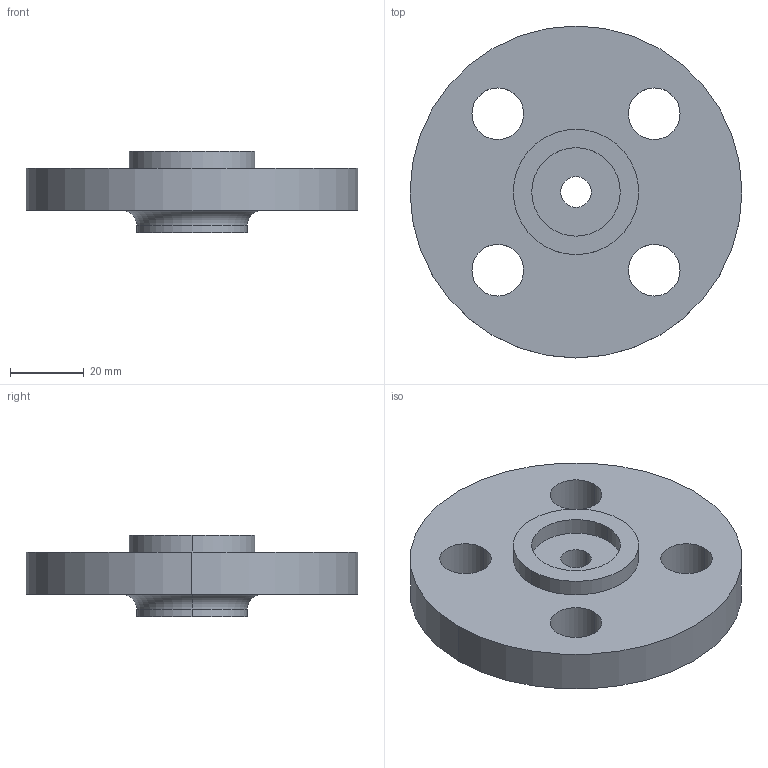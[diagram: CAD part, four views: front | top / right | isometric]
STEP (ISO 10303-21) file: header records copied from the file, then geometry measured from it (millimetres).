
FILE_DESCRIPTION (( 'STEP AP214' ), '1' );
FILE_NAME ('PN40 DN10 Type 13 - Type C Face.STEP', '2018-12-29T03:58:37', ( '' ), ( '' ), 'SwSTEP 2.0', 'SolidWorks 2019', '' );
FILE_SCHEMA (( 'AUTOMOTIVE_DESIGN' ));
Length unit declared in the file: millimetre
Products named in the file (1): PN40 DN10 Type 13 - Type C Face
Bounding box: 90 x 90 x 22 mm (x, y, z)
Volume: 71748.3 mm3; surface area: 18347.7 mm2
Topology: 1 solids, 1 shells, 25 faces, 58 edges, 38 vertices
Faces by surface type: cylinder 18, plane 5, torus 2
Entity records: 790 total; most frequent: DIRECTION 150, CARTESIAN_POINT 122, ORIENTED_EDGE 116, AXIS2_PLACEMENT_3D 66, EDGE_CURVE 58, CIRCLE 40, VERTEX_POINT 38, EDGE_LOOP 38
